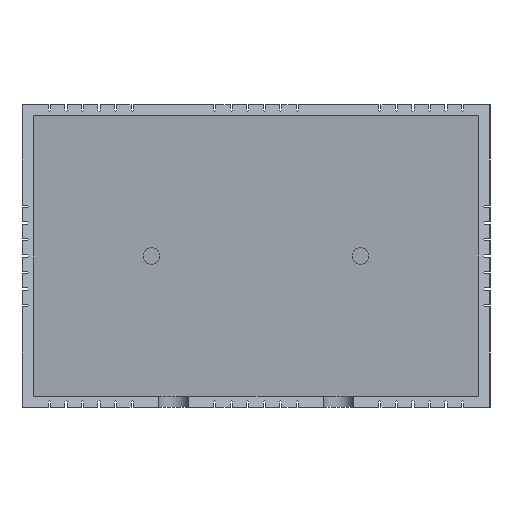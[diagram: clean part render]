
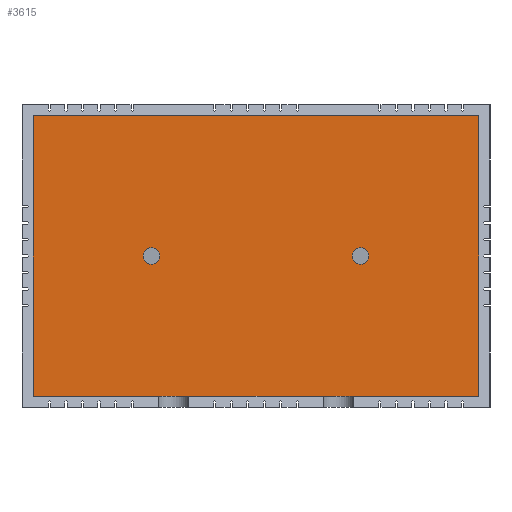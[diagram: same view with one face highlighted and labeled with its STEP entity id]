
A CAD part, left-side view. The second image highlights one B-rep face of the part: STEP entity #3615.
In plain terms, the highlighted planar face has unit normal (-1, 0, 0).
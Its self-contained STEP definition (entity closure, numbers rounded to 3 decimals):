
#28 = EDGE_CURVE ( 'NONE', #5008, #496, #1595, .T. ) ;
#137 = VERTEX_POINT ( 'NONE', #8052 ) ;
#269 = AXIS2_PLACEMENT_3D ( 'NONE', #5359, #8080, #5958 ) ;
#442 = VECTOR ( 'NONE', #3086, 1000. ) ;
#496 = VERTEX_POINT ( 'NONE', #6461 ) ;
#578 = EDGE_CURVE ( 'NONE', #496, #5008, #5388, .T. ) ;
#596 = VERTEX_POINT ( 'NONE', #8129 ) ;
#659 = ORIENTED_EDGE ( 'NONE', *, *, #28, .F. ) ;
#753 = VECTOR ( 'NONE', #2901, 1000. ) ;
#778 = ORIENTED_EDGE ( 'NONE', *, *, #2181, .F. ) ;
#803 = ORIENTED_EDGE ( 'NONE', *, *, #5048, .T. ) ;
#1162 = VECTOR ( 'NONE', #2454, 1000. ) ;
#1400 = ORIENTED_EDGE ( 'NONE', *, *, #5263, .T. ) ;
#1595 = CIRCLE ( 'NONE', #6401, 1.5 ) ;
#1855 = CARTESIAN_POINT ( 'NONE',  ( 31.85, -19., 0. ) ) ;
#1971 = ORIENTED_EDGE ( 'NONE', *, *, #578, .F. ) ;
#2037 = DIRECTION ( 'NONE',  ( 0., 0., 1. ) ) ;
#2122 = ORIENTED_EDGE ( 'NONE', *, *, #7127, .T. ) ;
#2163 = CARTESIAN_POINT ( 'NONE',  ( 31.85, -40.5, 25.5 ) ) ;
#2181 = EDGE_CURVE ( 'NONE', #8426, #137, #8509, .T. ) ;
#2248 = VERTEX_POINT ( 'NONE', #4892 ) ;
#2274 = CARTESIAN_POINT ( 'NONE',  ( 31.85, 40.5, -25.5 ) ) ;
#2454 = DIRECTION ( 'NONE',  ( 0., 0., -1. ) ) ;
#2462 = AXIS2_PLACEMENT_3D ( 'NONE', #8498, #3193, #3925 ) ;
#2644 = ORIENTED_EDGE ( 'NONE', *, *, #3832, .T. ) ;
#2645 = FACE_BOUND ( 'NONE', #5269, .T. ) ;
#2901 = DIRECTION ( 'NONE',  ( 0., 0., 1. ) ) ;
#3086 = DIRECTION ( 'NONE',  ( 0., -1., 0. ) ) ;
#3193 = DIRECTION ( 'NONE',  ( -1., 0., 0. ) ) ;
#3426 = VECTOR ( 'NONE', #8144, 1000. ) ;
#3583 = LINE ( 'NONE', #6174, #753 ) ;
#3615 = ADVANCED_FACE ( 'NONE', ( #2645, #8376, #7087 ), #4195, .T. ) ;
#3829 = DIRECTION ( 'NONE',  ( 0., 0., 1. ) ) ;
#3832 = EDGE_CURVE ( 'NONE', #596, #2248, #3583, .T. ) ;
#3925 = DIRECTION ( 'NONE',  ( 0., 0., -1. ) ) ;
#4170 = DIRECTION ( 'NONE',  ( 0., 0., 1. ) ) ;
#4195 = PLANE ( 'NONE',  #5567 ) ;
#4225 = LINE ( 'NONE', #2163, #3426 ) ;
#4390 = CARTESIAN_POINT ( 'NONE',  ( 31.85, 40.5, 25.5 ) ) ;
#4601 = CARTESIAN_POINT ( 'NONE',  ( 31.85, 19., 1.5 ) ) ;
#4722 = DIRECTION ( 'NONE',  ( -1., 0., 0. ) ) ;
#4747 = CARTESIAN_POINT ( 'NONE',  ( 31.85, 0., 0. ) ) ;
#4855 = CARTESIAN_POINT ( 'NONE',  ( 31.85, -19., 0. ) ) ;
#4892 = CARTESIAN_POINT ( 'NONE',  ( 31.85, -40.5, 25.5 ) ) ;
#4924 = EDGE_CURVE ( 'NONE', #137, #8426, #5626, .T. ) ;
#5008 = VERTEX_POINT ( 'NONE', #7799 ) ;
#5048 = EDGE_CURVE ( 'NONE', #2248, #5771, #4225, .T. ) ;
#5240 = EDGE_LOOP ( 'NONE', ( #6118, #778 ) ) ;
#5263 = EDGE_CURVE ( 'NONE', #5771, #8303, #7623, .T. ) ;
#5269 = EDGE_LOOP ( 'NONE', ( #1971, #659 ) ) ;
#5359 = CARTESIAN_POINT ( 'NONE',  ( 31.85, 19., 0. ) ) ;
#5388 = CIRCLE ( 'NONE', #6502, 1.5 ) ;
#5567 = AXIS2_PLACEMENT_3D ( 'NONE', #4747, #6700, #2037 ) ;
#5584 = LINE ( 'NONE', #2274, #442 ) ;
#5626 = CIRCLE ( 'NONE', #2462, 1.5 ) ;
#5771 = VERTEX_POINT ( 'NONE', #7143 ) ;
#5844 = CARTESIAN_POINT ( 'NONE',  ( 31.85, 40.5, -25.5 ) ) ;
#5929 = DIRECTION ( 'NONE',  ( -1., 0., 0. ) ) ;
#5958 = DIRECTION ( 'NONE',  ( 0., 0., -1. ) ) ;
#6118 = ORIENTED_EDGE ( 'NONE', *, *, #4924, .F. ) ;
#6174 = CARTESIAN_POINT ( 'NONE',  ( 31.85, -40.5, -25.5 ) ) ;
#6401 = AXIS2_PLACEMENT_3D ( 'NONE', #1855, #5929, #3829 ) ;
#6461 = CARTESIAN_POINT ( 'NONE',  ( 31.85, -19., -1.5 ) ) ;
#6502 = AXIS2_PLACEMENT_3D ( 'NONE', #4855, #4722, #4170 ) ;
#6700 = DIRECTION ( 'NONE',  ( -1., 0., 0. ) ) ;
#7087 = FACE_OUTER_BOUND ( 'NONE', #7262, .T. ) ;
#7127 = EDGE_CURVE ( 'NONE', #8303, #596, #5584, .T. ) ;
#7143 = CARTESIAN_POINT ( 'NONE',  ( 31.85, 40.5, 25.5 ) ) ;
#7262 = EDGE_LOOP ( 'NONE', ( #1400, #2122, #2644, #803 ) ) ;
#7623 = LINE ( 'NONE', #4390, #1162 ) ;
#7799 = CARTESIAN_POINT ( 'NONE',  ( 31.85, -19., 1.5 ) ) ;
#8052 = CARTESIAN_POINT ( 'NONE',  ( 31.85, 19., -1.5 ) ) ;
#8080 = DIRECTION ( 'NONE',  ( -1., 0., 0. ) ) ;
#8129 = CARTESIAN_POINT ( 'NONE',  ( 31.85, -40.5, -25.5 ) ) ;
#8144 = DIRECTION ( 'NONE',  ( 0., 1., 0. ) ) ;
#8303 = VERTEX_POINT ( 'NONE', #5844 ) ;
#8376 = FACE_BOUND ( 'NONE', #5240, .T. ) ;
#8426 = VERTEX_POINT ( 'NONE', #4601 ) ;
#8498 = CARTESIAN_POINT ( 'NONE',  ( 31.85, 19., 0. ) ) ;
#8509 = CIRCLE ( 'NONE', #269, 1.5 ) ;
